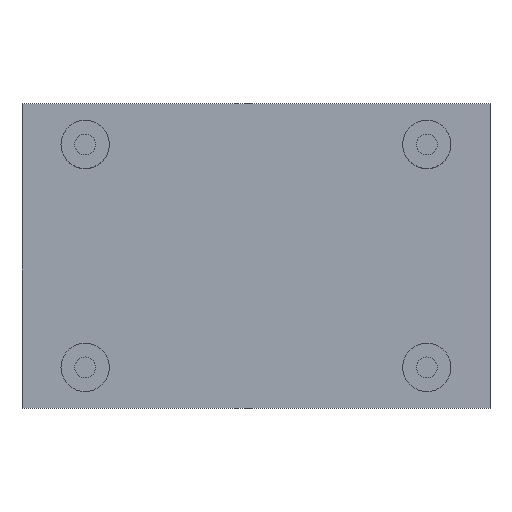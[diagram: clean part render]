
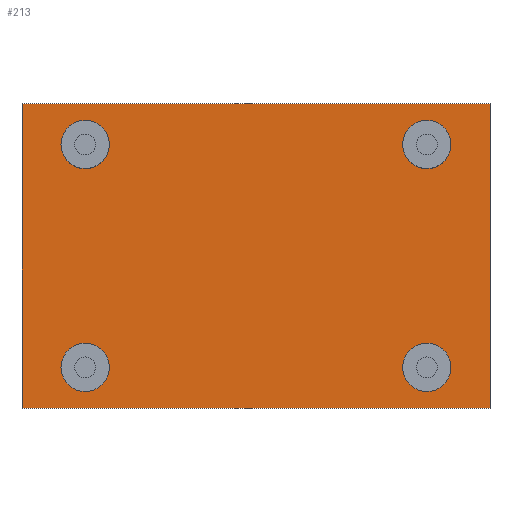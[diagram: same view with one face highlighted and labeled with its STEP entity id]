
A CAD part, top view. The second image highlights one B-rep face of the part: STEP entity #213.
In plain terms, the highlighted planar face has unit normal (0, 0, 1).
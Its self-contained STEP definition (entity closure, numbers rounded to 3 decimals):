
#24 = VERTEX_POINT('',#25);
#25 = CARTESIAN_POINT('',(-63.,-41.,8.));
#32 = PLANE('',#33);
#33 = AXIS2_PLACEMENT_3D('',#34,#35,#36);
#34 = CARTESIAN_POINT('',(-63.,-41.,0.));
#35 = DIRECTION('',(1.,0.,0.));
#36 = DIRECTION('',(0.,0.,1.));
#44 = PLANE('',#45);
#45 = AXIS2_PLACEMENT_3D('',#46,#47,#48);
#46 = CARTESIAN_POINT('',(-63.,-41.,0.));
#47 = DIRECTION('',(0.,1.,0.));
#48 = DIRECTION('',(0.,0.,1.));
#85 = VERTEX_POINT('',#86);
#86 = CARTESIAN_POINT('',(-63.,41.,8.));
#100 = PLANE('',#101);
#101 = AXIS2_PLACEMENT_3D('',#102,#103,#104);
#102 = CARTESIAN_POINT('',(-63.,41.,0.));
#103 = DIRECTION('',(0.,1.,0.));
#104 = DIRECTION('',(0.,0.,1.));
#112 = EDGE_CURVE('',#24,#85,#113,.T.);
#113 = SURFACE_CURVE('',#114,(#118,#125),.PCURVE_S1.);
#114 = LINE('',#115,#116);
#115 = CARTESIAN_POINT('',(-63.,-41.,8.));
#116 = VECTOR('',#117,1.);
#117 = DIRECTION('',(0.,1.,0.));
#118 = PCURVE('',#32,#119);
#119 = DEFINITIONAL_REPRESENTATION('',(#120),#124);
#120 = LINE('',#121,#122);
#121 = CARTESIAN_POINT('',(8.,0.));
#122 = VECTOR('',#123,1.);
#123 = DIRECTION('',(0.,-1.));
#124 = ( GEOMETRIC_REPRESENTATION_CONTEXT(2) 
PARAMETRIC_REPRESENTATION_CONTEXT() REPRESENTATION_CONTEXT('2D SPACE',''
  ) );
#125 = PCURVE('',#126,#131);
#126 = PLANE('',#127);
#127 = AXIS2_PLACEMENT_3D('',#128,#129,#130);
#128 = CARTESIAN_POINT('',(-63.,-41.,8.));
#129 = DIRECTION('',(0.,0.,1.));
#130 = DIRECTION('',(1.,0.,0.));
#131 = DEFINITIONAL_REPRESENTATION('',(#132),#136);
#132 = LINE('',#133,#134);
#133 = CARTESIAN_POINT('',(0.,0.));
#134 = VECTOR('',#135,1.);
#135 = DIRECTION('',(0.,1.));
#136 = ( GEOMETRIC_REPRESENTATION_CONTEXT(2) 
PARAMETRIC_REPRESENTATION_CONTEXT() REPRESENTATION_CONTEXT('2D SPACE',''
  ) );
#165 = EDGE_CURVE('',#24,#166,#168,.T.);
#166 = VERTEX_POINT('',#167);
#167 = CARTESIAN_POINT('',(63.,-41.,8.));
#168 = SURFACE_CURVE('',#169,(#173,#180),.PCURVE_S1.);
#169 = LINE('',#170,#171);
#170 = CARTESIAN_POINT('',(-63.,-41.,8.));
#171 = VECTOR('',#172,1.);
#172 = DIRECTION('',(1.,0.,0.));
#173 = PCURVE('',#44,#174);
#174 = DEFINITIONAL_REPRESENTATION('',(#175),#179);
#175 = LINE('',#176,#177);
#176 = CARTESIAN_POINT('',(8.,0.));
#177 = VECTOR('',#178,1.);
#178 = DIRECTION('',(0.,1.));
#179 = ( GEOMETRIC_REPRESENTATION_CONTEXT(2) 
PARAMETRIC_REPRESENTATION_CONTEXT() REPRESENTATION_CONTEXT('2D SPACE',''
  ) );
#180 = PCURVE('',#126,#181);
#181 = DEFINITIONAL_REPRESENTATION('',(#182),#186);
#182 = LINE('',#183,#184);
#183 = CARTESIAN_POINT('',(0.,0.));
#184 = VECTOR('',#185,1.);
#185 = DIRECTION('',(1.,0.));
#186 = ( GEOMETRIC_REPRESENTATION_CONTEXT(2) 
PARAMETRIC_REPRESENTATION_CONTEXT() REPRESENTATION_CONTEXT('2D SPACE',''
  ) );
#202 = PLANE('',#203);
#203 = AXIS2_PLACEMENT_3D('',#204,#205,#206);
#204 = CARTESIAN_POINT('',(63.,-41.,0.));
#205 = DIRECTION('',(1.,0.,0.));
#206 = DIRECTION('',(0.,0.,1.));
#213 = ADVANCED_FACE('',(#214,#262,#293,#324,#355),#126,.T.);
#214 = FACE_BOUND('',#215,.T.);
#215 = EDGE_LOOP('',(#216,#217,#218,#241));
#216 = ORIENTED_EDGE('',*,*,#112,.F.);
#217 = ORIENTED_EDGE('',*,*,#165,.T.);
#218 = ORIENTED_EDGE('',*,*,#219,.T.);
#219 = EDGE_CURVE('',#166,#220,#222,.T.);
#220 = VERTEX_POINT('',#221);
#221 = CARTESIAN_POINT('',(63.,41.,8.));
#222 = SURFACE_CURVE('',#223,(#227,#234),.PCURVE_S1.);
#223 = LINE('',#224,#225);
#224 = CARTESIAN_POINT('',(63.,-41.,8.));
#225 = VECTOR('',#226,1.);
#226 = DIRECTION('',(0.,1.,0.));
#227 = PCURVE('',#126,#228);
#228 = DEFINITIONAL_REPRESENTATION('',(#229),#233);
#229 = LINE('',#230,#231);
#230 = CARTESIAN_POINT('',(126.,0.));
#231 = VECTOR('',#232,1.);
#232 = DIRECTION('',(0.,1.));
#233 = ( GEOMETRIC_REPRESENTATION_CONTEXT(2) 
PARAMETRIC_REPRESENTATION_CONTEXT() REPRESENTATION_CONTEXT('2D SPACE',''
  ) );
#234 = PCURVE('',#202,#235);
#235 = DEFINITIONAL_REPRESENTATION('',(#236),#240);
#236 = LINE('',#237,#238);
#237 = CARTESIAN_POINT('',(8.,0.));
#238 = VECTOR('',#239,1.);
#239 = DIRECTION('',(0.,-1.));
#240 = ( GEOMETRIC_REPRESENTATION_CONTEXT(2) 
PARAMETRIC_REPRESENTATION_CONTEXT() REPRESENTATION_CONTEXT('2D SPACE',''
  ) );
#241 = ORIENTED_EDGE('',*,*,#242,.F.);
#242 = EDGE_CURVE('',#85,#220,#243,.T.);
#243 = SURFACE_CURVE('',#244,(#248,#255),.PCURVE_S1.);
#244 = LINE('',#245,#246);
#245 = CARTESIAN_POINT('',(-63.,41.,8.));
#246 = VECTOR('',#247,1.);
#247 = DIRECTION('',(1.,0.,0.));
#248 = PCURVE('',#126,#249);
#249 = DEFINITIONAL_REPRESENTATION('',(#250),#254);
#250 = LINE('',#251,#252);
#251 = CARTESIAN_POINT('',(0.,82.));
#252 = VECTOR('',#253,1.);
#253 = DIRECTION('',(1.,0.));
#254 = ( GEOMETRIC_REPRESENTATION_CONTEXT(2) 
PARAMETRIC_REPRESENTATION_CONTEXT() REPRESENTATION_CONTEXT('2D SPACE',''
  ) );
#255 = PCURVE('',#100,#256);
#256 = DEFINITIONAL_REPRESENTATION('',(#257),#261);
#257 = LINE('',#258,#259);
#258 = CARTESIAN_POINT('',(8.,0.));
#259 = VECTOR('',#260,1.);
#260 = DIRECTION('',(0.,1.));
#261 = ( GEOMETRIC_REPRESENTATION_CONTEXT(2) 
PARAMETRIC_REPRESENTATION_CONTEXT() REPRESENTATION_CONTEXT('2D SPACE',''
  ) );
#262 = FACE_BOUND('',#263,.T.);
#263 = EDGE_LOOP('',(#264));
#264 = ORIENTED_EDGE('',*,*,#265,.F.);
#265 = EDGE_CURVE('',#266,#266,#268,.T.);
#266 = VERTEX_POINT('',#267);
#267 = CARTESIAN_POINT('',(-39.5,-30.,8.));
#268 = SURFACE_CURVE('',#269,(#274,#281),.PCURVE_S1.);
#269 = CIRCLE('',#270,6.5);
#270 = AXIS2_PLACEMENT_3D('',#271,#272,#273);
#271 = CARTESIAN_POINT('',(-46.,-30.,8.));
#272 = DIRECTION('',(0.,0.,1.));
#273 = DIRECTION('',(1.,0.,0.));
#274 = PCURVE('',#126,#275);
#275 = DEFINITIONAL_REPRESENTATION('',(#276),#280);
#276 = CIRCLE('',#277,6.5);
#277 = AXIS2_PLACEMENT_2D('',#278,#279);
#278 = CARTESIAN_POINT('',(17.,11.));
#279 = DIRECTION('',(1.,0.));
#280 = ( GEOMETRIC_REPRESENTATION_CONTEXT(2) 
PARAMETRIC_REPRESENTATION_CONTEXT() REPRESENTATION_CONTEXT('2D SPACE',''
  ) );
#281 = PCURVE('',#282,#287);
#282 = CYLINDRICAL_SURFACE('',#283,6.5);
#283 = AXIS2_PLACEMENT_3D('',#284,#285,#286);
#284 = CARTESIAN_POINT('',(-46.,-30.,8.));
#285 = DIRECTION('',(-0.,-0.,-1.));
#286 = DIRECTION('',(1.,0.,0.));
#287 = DEFINITIONAL_REPRESENTATION('',(#288),#292);
#288 = LINE('',#289,#290);
#289 = CARTESIAN_POINT('',(-0.,0.));
#290 = VECTOR('',#291,1.);
#291 = DIRECTION('',(-1.,0.));
#292 = ( GEOMETRIC_REPRESENTATION_CONTEXT(2) 
PARAMETRIC_REPRESENTATION_CONTEXT() REPRESENTATION_CONTEXT('2D SPACE',''
  ) );
#293 = FACE_BOUND('',#294,.T.);
#294 = EDGE_LOOP('',(#295));
#295 = ORIENTED_EDGE('',*,*,#296,.F.);
#296 = EDGE_CURVE('',#297,#297,#299,.T.);
#297 = VERTEX_POINT('',#298);
#298 = CARTESIAN_POINT('',(52.5,-30.,8.));
#299 = SURFACE_CURVE('',#300,(#305,#312),.PCURVE_S1.);
#300 = CIRCLE('',#301,6.5);
#301 = AXIS2_PLACEMENT_3D('',#302,#303,#304);
#302 = CARTESIAN_POINT('',(46.,-30.,8.));
#303 = DIRECTION('',(0.,0.,1.));
#304 = DIRECTION('',(1.,0.,0.));
#305 = PCURVE('',#126,#306);
#306 = DEFINITIONAL_REPRESENTATION('',(#307),#311);
#307 = CIRCLE('',#308,6.5);
#308 = AXIS2_PLACEMENT_2D('',#309,#310);
#309 = CARTESIAN_POINT('',(109.,11.));
#310 = DIRECTION('',(1.,0.));
#311 = ( GEOMETRIC_REPRESENTATION_CONTEXT(2) 
PARAMETRIC_REPRESENTATION_CONTEXT() REPRESENTATION_CONTEXT('2D SPACE',''
  ) );
#312 = PCURVE('',#313,#318);
#313 = CYLINDRICAL_SURFACE('',#314,6.5);
#314 = AXIS2_PLACEMENT_3D('',#315,#316,#317);
#315 = CARTESIAN_POINT('',(46.,-30.,8.));
#316 = DIRECTION('',(-0.,-0.,-1.));
#317 = DIRECTION('',(1.,0.,0.));
#318 = DEFINITIONAL_REPRESENTATION('',(#319),#323);
#319 = LINE('',#320,#321);
#320 = CARTESIAN_POINT('',(-0.,0.));
#321 = VECTOR('',#322,1.);
#322 = DIRECTION('',(-1.,0.));
#323 = ( GEOMETRIC_REPRESENTATION_CONTEXT(2) 
PARAMETRIC_REPRESENTATION_CONTEXT() REPRESENTATION_CONTEXT('2D SPACE',''
  ) );
#324 = FACE_BOUND('',#325,.T.);
#325 = EDGE_LOOP('',(#326));
#326 = ORIENTED_EDGE('',*,*,#327,.F.);
#327 = EDGE_CURVE('',#328,#328,#330,.T.);
#328 = VERTEX_POINT('',#329);
#329 = CARTESIAN_POINT('',(-39.5,30.,8.));
#330 = SURFACE_CURVE('',#331,(#336,#343),.PCURVE_S1.);
#331 = CIRCLE('',#332,6.5);
#332 = AXIS2_PLACEMENT_3D('',#333,#334,#335);
#333 = CARTESIAN_POINT('',(-46.,30.,8.));
#334 = DIRECTION('',(0.,0.,1.));
#335 = DIRECTION('',(1.,0.,0.));
#336 = PCURVE('',#126,#337);
#337 = DEFINITIONAL_REPRESENTATION('',(#338),#342);
#338 = CIRCLE('',#339,6.5);
#339 = AXIS2_PLACEMENT_2D('',#340,#341);
#340 = CARTESIAN_POINT('',(17.,71.));
#341 = DIRECTION('',(1.,0.));
#342 = ( GEOMETRIC_REPRESENTATION_CONTEXT(2) 
PARAMETRIC_REPRESENTATION_CONTEXT() REPRESENTATION_CONTEXT('2D SPACE',''
  ) );
#343 = PCURVE('',#344,#349);
#344 = CYLINDRICAL_SURFACE('',#345,6.5);
#345 = AXIS2_PLACEMENT_3D('',#346,#347,#348);
#346 = CARTESIAN_POINT('',(-46.,30.,8.));
#347 = DIRECTION('',(-0.,-0.,-1.));
#348 = DIRECTION('',(1.,0.,0.));
#349 = DEFINITIONAL_REPRESENTATION('',(#350),#354);
#350 = LINE('',#351,#352);
#351 = CARTESIAN_POINT('',(-0.,0.));
#352 = VECTOR('',#353,1.);
#353 = DIRECTION('',(-1.,0.));
#354 = ( GEOMETRIC_REPRESENTATION_CONTEXT(2) 
PARAMETRIC_REPRESENTATION_CONTEXT() REPRESENTATION_CONTEXT('2D SPACE',''
  ) );
#355 = FACE_BOUND('',#356,.T.);
#356 = EDGE_LOOP('',(#357));
#357 = ORIENTED_EDGE('',*,*,#358,.F.);
#358 = EDGE_CURVE('',#359,#359,#361,.T.);
#359 = VERTEX_POINT('',#360);
#360 = CARTESIAN_POINT('',(52.5,30.,8.));
#361 = SURFACE_CURVE('',#362,(#367,#374),.PCURVE_S1.);
#362 = CIRCLE('',#363,6.5);
#363 = AXIS2_PLACEMENT_3D('',#364,#365,#366);
#364 = CARTESIAN_POINT('',(46.,30.,8.));
#365 = DIRECTION('',(0.,0.,1.));
#366 = DIRECTION('',(1.,0.,0.));
#367 = PCURVE('',#126,#368);
#368 = DEFINITIONAL_REPRESENTATION('',(#369),#373);
#369 = CIRCLE('',#370,6.5);
#370 = AXIS2_PLACEMENT_2D('',#371,#372);
#371 = CARTESIAN_POINT('',(109.,71.));
#372 = DIRECTION('',(1.,0.));
#373 = ( GEOMETRIC_REPRESENTATION_CONTEXT(2) 
PARAMETRIC_REPRESENTATION_CONTEXT() REPRESENTATION_CONTEXT('2D SPACE',''
  ) );
#374 = PCURVE('',#375,#380);
#375 = CYLINDRICAL_SURFACE('',#376,6.5);
#376 = AXIS2_PLACEMENT_3D('',#377,#378,#379);
#377 = CARTESIAN_POINT('',(46.,30.,8.));
#378 = DIRECTION('',(-0.,-0.,-1.));
#379 = DIRECTION('',(1.,0.,0.));
#380 = DEFINITIONAL_REPRESENTATION('',(#381),#385);
#381 = LINE('',#382,#383);
#382 = CARTESIAN_POINT('',(-0.,0.));
#383 = VECTOR('',#384,1.);
#384 = DIRECTION('',(-1.,0.));
#385 = ( GEOMETRIC_REPRESENTATION_CONTEXT(2) 
PARAMETRIC_REPRESENTATION_CONTEXT() REPRESENTATION_CONTEXT('2D SPACE',''
  ) );
